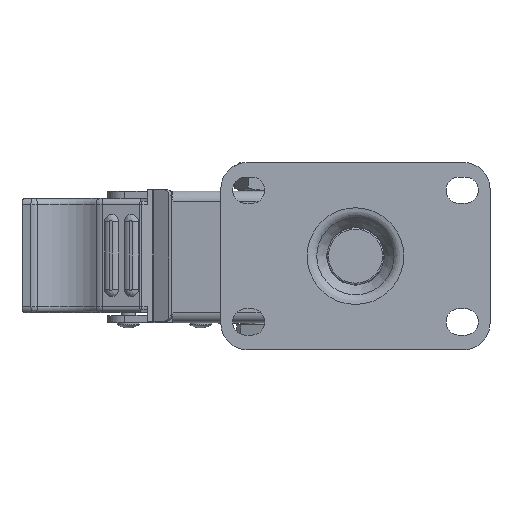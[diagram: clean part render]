
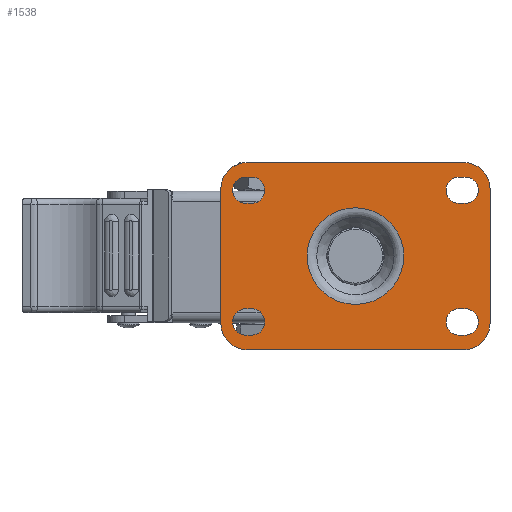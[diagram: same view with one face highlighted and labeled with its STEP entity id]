
A CAD part, top view. The second image highlights one B-rep face of the part: STEP entity #1538.
In plain terms, the highlighted planar face has unit normal (0, 0, 1).
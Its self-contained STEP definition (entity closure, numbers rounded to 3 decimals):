
#1538=ADVANCED_FACE('',(#6688,#6689,#6690,#6691,#6692,#6693),#2603,.F.);
#2603=PLANE('',#19925);
#4136=LINE('',#28162,#5403);
#4137=LINE('',#28167,#5404);
#4138=LINE('',#28170,#5405);
#4139=LINE('',#28175,#5406);
#4140=LINE('',#28178,#5407);
#4141=LINE('',#28183,#5408);
#4142=LINE('',#28186,#5409);
#4143=LINE('',#28191,#5410);
#4144=LINE('',#28194,#5411);
#4145=LINE('',#28197,#5412);
#4146=LINE('',#28201,#5413);
#4147=LINE('',#28205,#5414);
#4148=LINE('',#28207,#5415);
#4149=LINE('',#28211,#5416);
#5403=VECTOR('',#21854,1.);
#5404=VECTOR('',#21857,1.);
#5405=VECTOR('',#21860,1.);
#5406=VECTOR('',#21863,1.);
#5407=VECTOR('',#21866,1.);
#5408=VECTOR('',#21869,1.);
#5409=VECTOR('',#21872,1.);
#5410=VECTOR('',#21875,1.);
#5411=VECTOR('',#21878,1.);
#5412=VECTOR('',#21879,1.);
#5413=VECTOR('',#21882,1.);
#5414=VECTOR('',#21885,1.);
#5415=VECTOR('',#21886,1.);
#5416=VECTOR('',#21889,1.);
#6688=FACE_BOUND('',#7053,.T.);
#6689=FACE_BOUND('',#7054,.T.);
#6690=FACE_BOUND('',#7055,.T.);
#6691=FACE_BOUND('',#7056,.T.);
#6692=FACE_BOUND('',#7057,.T.);
#6693=FACE_BOUND('',#7058,.T.);
#7053=EDGE_LOOP('',(#8554));
#7054=EDGE_LOOP('',(#8555,#8556,#8557,#8558));
#7055=EDGE_LOOP('',(#8559,#8560,#8561,#8562));
#7056=EDGE_LOOP('',(#8563,#8564,#8565,#8566));
#7057=EDGE_LOOP('',(#8567,#8568,#8569,#8570));
#7058=EDGE_LOOP('',(#8571,#8572,#8573,#8574,#8575,#8576,#8577,#8578,#8579,
#8580));
#8554=ORIENTED_EDGE('',*,*,#16398,.T.);
#8555=ORIENTED_EDGE('',*,*,#16399,.F.);
#8556=ORIENTED_EDGE('',*,*,#16400,.F.);
#8557=ORIENTED_EDGE('',*,*,#16401,.F.);
#8558=ORIENTED_EDGE('',*,*,#16402,.F.);
#8559=ORIENTED_EDGE('',*,*,#16403,.F.);
#8560=ORIENTED_EDGE('',*,*,#16404,.F.);
#8561=ORIENTED_EDGE('',*,*,#16405,.F.);
#8562=ORIENTED_EDGE('',*,*,#16406,.F.);
#8563=ORIENTED_EDGE('',*,*,#16407,.F.);
#8564=ORIENTED_EDGE('',*,*,#16408,.F.);
#8565=ORIENTED_EDGE('',*,*,#16409,.F.);
#8566=ORIENTED_EDGE('',*,*,#16410,.F.);
#8567=ORIENTED_EDGE('',*,*,#16411,.F.);
#8568=ORIENTED_EDGE('',*,*,#16412,.F.);
#8569=ORIENTED_EDGE('',*,*,#16413,.F.);
#8570=ORIENTED_EDGE('',*,*,#16414,.F.);
#8571=ORIENTED_EDGE('',*,*,#16415,.T.);
#8572=ORIENTED_EDGE('',*,*,#16416,.T.);
#8573=ORIENTED_EDGE('',*,*,#16417,.T.);
#8574=ORIENTED_EDGE('',*,*,#16418,.T.);
#8575=ORIENTED_EDGE('',*,*,#16419,.T.);
#8576=ORIENTED_EDGE('',*,*,#16420,.T.);
#8577=ORIENTED_EDGE('',*,*,#16421,.T.);
#8578=ORIENTED_EDGE('',*,*,#16422,.T.);
#8579=ORIENTED_EDGE('',*,*,#16423,.T.);
#8580=ORIENTED_EDGE('',*,*,#16424,.T.);
#14416=VERTEX_POINT('',#28161);
#14417=VERTEX_POINT('',#28163);
#14418=VERTEX_POINT('',#28164);
#14419=VERTEX_POINT('',#28166);
#14420=VERTEX_POINT('',#28168);
#14421=VERTEX_POINT('',#28171);
#14422=VERTEX_POINT('',#28172);
#14423=VERTEX_POINT('',#28174);
#14424=VERTEX_POINT('',#28176);
#14425=VERTEX_POINT('',#28179);
#14426=VERTEX_POINT('',#28180);
#14427=VERTEX_POINT('',#28182);
#14428=VERTEX_POINT('',#28184);
#14429=VERTEX_POINT('',#28187);
#14430=VERTEX_POINT('',#28188);
#14431=VERTEX_POINT('',#28190);
#14432=VERTEX_POINT('',#28192);
#14433=VERTEX_POINT('',#28195);
#14434=VERTEX_POINT('',#28196);
#14435=VERTEX_POINT('',#28198);
#14436=VERTEX_POINT('',#28200);
#14437=VERTEX_POINT('',#28202);
#14438=VERTEX_POINT('',#28204);
#14439=VERTEX_POINT('',#28206);
#14440=VERTEX_POINT('',#28208);
#14441=VERTEX_POINT('',#28210);
#14442=VERTEX_POINT('',#28212);
#16398=EDGE_CURVE('',#14416,#14416,#19145,.T.);
#16399=EDGE_CURVE('',#14417,#14418,#4136,.T.);
#16400=EDGE_CURVE('',#14419,#14417,#19146,.T.);
#16401=EDGE_CURVE('',#14420,#14419,#4137,.T.);
#16402=EDGE_CURVE('',#14418,#14420,#19147,.T.);
#16403=EDGE_CURVE('',#14421,#14422,#4138,.T.);
#16404=EDGE_CURVE('',#14423,#14421,#19148,.T.);
#16405=EDGE_CURVE('',#14424,#14423,#4139,.T.);
#16406=EDGE_CURVE('',#14422,#14424,#19149,.T.);
#16407=EDGE_CURVE('',#14425,#14426,#4140,.T.);
#16408=EDGE_CURVE('',#14427,#14425,#19150,.T.);
#16409=EDGE_CURVE('',#14428,#14427,#4141,.T.);
#16410=EDGE_CURVE('',#14426,#14428,#19151,.T.);
#16411=EDGE_CURVE('',#14429,#14430,#4142,.T.);
#16412=EDGE_CURVE('',#14431,#14429,#19152,.T.);
#16413=EDGE_CURVE('',#14432,#14431,#4143,.T.);
#16414=EDGE_CURVE('',#14430,#14432,#19153,.T.);
#16415=EDGE_CURVE('',#14433,#14434,#4144,.T.);
#16416=EDGE_CURVE('',#14434,#14435,#4145,.T.);
#16417=EDGE_CURVE('',#14435,#14436,#19154,.T.);
#16418=EDGE_CURVE('',#14436,#14437,#4146,.T.);
#16419=EDGE_CURVE('',#14437,#14438,#19155,.T.);
#16420=EDGE_CURVE('',#14438,#14439,#4147,.T.);
#16421=EDGE_CURVE('',#14439,#14440,#4148,.T.);
#16422=EDGE_CURVE('',#14440,#14441,#19156,.T.);
#16423=EDGE_CURVE('',#14441,#14442,#4149,.T.);
#16424=EDGE_CURVE('',#14442,#14433,#19157,.T.);
#19145=CIRCLE('',#19912,16.522);
#19146=CIRCLE('',#19913,4.5);
#19147=CIRCLE('',#19914,4.5);
#19148=CIRCLE('',#19915,4.5);
#19149=CIRCLE('',#19916,4.5);
#19150=CIRCLE('',#19917,4.5);
#19151=CIRCLE('',#19918,4.5);
#19152=CIRCLE('',#19919,4.5);
#19153=CIRCLE('',#19920,4.5);
#19154=CIRCLE('',#19921,9.);
#19155=CIRCLE('',#19922,9.);
#19156=CIRCLE('',#19923,9.);
#19157=CIRCLE('',#19924,9.);
#19912=AXIS2_PLACEMENT_3D('',#28160,#21852,#21853);
#19913=AXIS2_PLACEMENT_3D('',#28165,#21855,#21856);
#19914=AXIS2_PLACEMENT_3D('',#28169,#21858,#21859);
#19915=AXIS2_PLACEMENT_3D('',#28173,#21861,#21862);
#19916=AXIS2_PLACEMENT_3D('',#28177,#21864,#21865);
#19917=AXIS2_PLACEMENT_3D('',#28181,#21867,#21868);
#19918=AXIS2_PLACEMENT_3D('',#28185,#21870,#21871);
#19919=AXIS2_PLACEMENT_3D('',#28189,#21873,#21874);
#19920=AXIS2_PLACEMENT_3D('',#28193,#21876,#21877);
#19921=AXIS2_PLACEMENT_3D('',#28199,#21880,#21881);
#19922=AXIS2_PLACEMENT_3D('',#28203,#21883,#21884);
#19923=AXIS2_PLACEMENT_3D('',#28209,#21887,#21888);
#19924=AXIS2_PLACEMENT_3D('',#28213,#21890,#21891);
#19925=AXIS2_PLACEMENT_3D('',#28214,#21892,#21893);
#21852=DIRECTION('',(0.,0.,-1.));
#21853=DIRECTION('',(-1.,0.,0.));
#21854=DIRECTION('',(1.,0.,0.));
#21855=DIRECTION('',(0.,0.,1.));
#21856=DIRECTION('',(1.,0.,0.));
#21857=DIRECTION('',(-1.,0.,0.));
#21858=DIRECTION('',(0.,0.,1.));
#21859=DIRECTION('',(1.,0.,0.));
#21860=DIRECTION('',(1.,0.,0.));
#21861=DIRECTION('',(0.,0.,1.));
#21862=DIRECTION('',(1.,0.,0.));
#21863=DIRECTION('',(-1.,0.,0.));
#21864=DIRECTION('',(0.,0.,1.));
#21865=DIRECTION('',(1.,0.,0.));
#21866=DIRECTION('',(1.,0.,0.));
#21867=DIRECTION('',(0.,0.,1.));
#21868=DIRECTION('',(1.,0.,0.));
#21869=DIRECTION('',(-1.,0.,0.));
#21870=DIRECTION('',(0.,0.,1.));
#21871=DIRECTION('',(1.,0.,0.));
#21872=DIRECTION('',(1.,0.,0.));
#21873=DIRECTION('',(0.,0.,1.));
#21874=DIRECTION('',(1.,0.,0.));
#21875=DIRECTION('',(-1.,0.,0.));
#21876=DIRECTION('',(0.,0.,1.));
#21877=DIRECTION('',(1.,0.,0.));
#21878=DIRECTION('',(-1.,0.,0.));
#21879=DIRECTION('',(-1.,0.,0.));
#21880=DIRECTION('',(0.,0.,1.));
#21881=DIRECTION('',(1.,0.,0.));
#21882=DIRECTION('',(0.,-1.,0.));
#21883=DIRECTION('',(0.,0.,1.));
#21884=DIRECTION('',(1.,0.,0.));
#21885=DIRECTION('',(1.,0.,0.));
#21886=DIRECTION('',(1.,0.,0.));
#21887=DIRECTION('',(0.,0.,1.));
#21888=DIRECTION('',(-1.,0.,0.));
#21889=DIRECTION('',(0.,1.,0.));
#21890=DIRECTION('',(0.,0.,1.));
#21891=DIRECTION('',(-1.,0.,0.));
#21892=DIRECTION('',(0.,0.,-1.));
#21893=DIRECTION('',(1.,0.,0.));
#28160=CARTESIAN_POINT('',(0.,0.,0.));
#28161=CARTESIAN_POINT('',(-16.522,0.,0.));
#28162=CARTESIAN_POINT('',(-37.5,18.,0.));
#28163=CARTESIAN_POINT('',(-37.5,18.,0.));
#28164=CARTESIAN_POINT('',(-35.5,18.,0.));
#28165=CARTESIAN_POINT('',(-37.5,22.5,0.));
#28166=CARTESIAN_POINT('',(-37.5,27.,0.));
#28167=CARTESIAN_POINT('',(-37.5,27.,0.));
#28168=CARTESIAN_POINT('',(-35.5,27.,0.));
#28169=CARTESIAN_POINT('',(-35.5,22.5,0.));
#28170=CARTESIAN_POINT('',(-37.5,-27.,0.));
#28171=CARTESIAN_POINT('',(-37.5,-27.,0.));
#28172=CARTESIAN_POINT('',(-35.5,-27.,0.));
#28173=CARTESIAN_POINT('',(-37.5,-22.5,0.));
#28174=CARTESIAN_POINT('',(-37.5,-18.,0.));
#28175=CARTESIAN_POINT('',(-37.5,-18.,0.));
#28176=CARTESIAN_POINT('',(-35.5,-18.,0.));
#28177=CARTESIAN_POINT('',(-35.5,-22.5,0.));
#28178=CARTESIAN_POINT('',(35.5,-27.,0.));
#28179=CARTESIAN_POINT('',(35.5,-27.,0.));
#28180=CARTESIAN_POINT('',(37.5,-27.,0.));
#28181=CARTESIAN_POINT('',(35.5,-22.5,0.));
#28182=CARTESIAN_POINT('',(35.5,-18.,0.));
#28183=CARTESIAN_POINT('',(35.5,-18.,0.));
#28184=CARTESIAN_POINT('',(37.5,-18.,0.));
#28185=CARTESIAN_POINT('',(37.5,-22.5,0.));
#28186=CARTESIAN_POINT('',(35.5,18.,0.));
#28187=CARTESIAN_POINT('',(35.5,18.,0.));
#28188=CARTESIAN_POINT('',(37.5,18.,0.));
#28189=CARTESIAN_POINT('',(35.5,22.5,0.));
#28190=CARTESIAN_POINT('',(35.5,27.,0.));
#28191=CARTESIAN_POINT('',(35.5,27.,0.));
#28192=CARTESIAN_POINT('',(37.5,27.,0.));
#28193=CARTESIAN_POINT('',(37.5,22.5,0.));
#28194=CARTESIAN_POINT('',(-37.,32.,0.));
#28195=CARTESIAN_POINT('',(37.,32.,0.));
#28196=CARTESIAN_POINT('',(0.,32.,0.));
#28197=CARTESIAN_POINT('',(-37.,32.,0.));
#28198=CARTESIAN_POINT('',(-37.,32.,0.));
#28199=CARTESIAN_POINT('',(-37.,23.,0.));
#28200=CARTESIAN_POINT('',(-46.,23.,0.));
#28201=CARTESIAN_POINT('',(-46.,23.,0.));
#28202=CARTESIAN_POINT('',(-46.,-23.,0.));
#28203=CARTESIAN_POINT('',(-37.,-23.,0.));
#28204=CARTESIAN_POINT('',(-37.,-32.,0.));
#28205=CARTESIAN_POINT('',(-37.,-32.,0.));
#28206=CARTESIAN_POINT('',(0.,-32.,0.));
#28207=CARTESIAN_POINT('',(-37.,-32.,0.));
#28208=CARTESIAN_POINT('',(37.,-32.,0.));
#28209=CARTESIAN_POINT('',(37.,-23.,0.));
#28210=CARTESIAN_POINT('',(46.,-23.,0.));
#28211=CARTESIAN_POINT('',(46.,23.,0.));
#28212=CARTESIAN_POINT('',(46.,23.,0.));
#28213=CARTESIAN_POINT('',(37.,23.,0.));
#28214=CARTESIAN_POINT('',(-32.,0.,0.));
